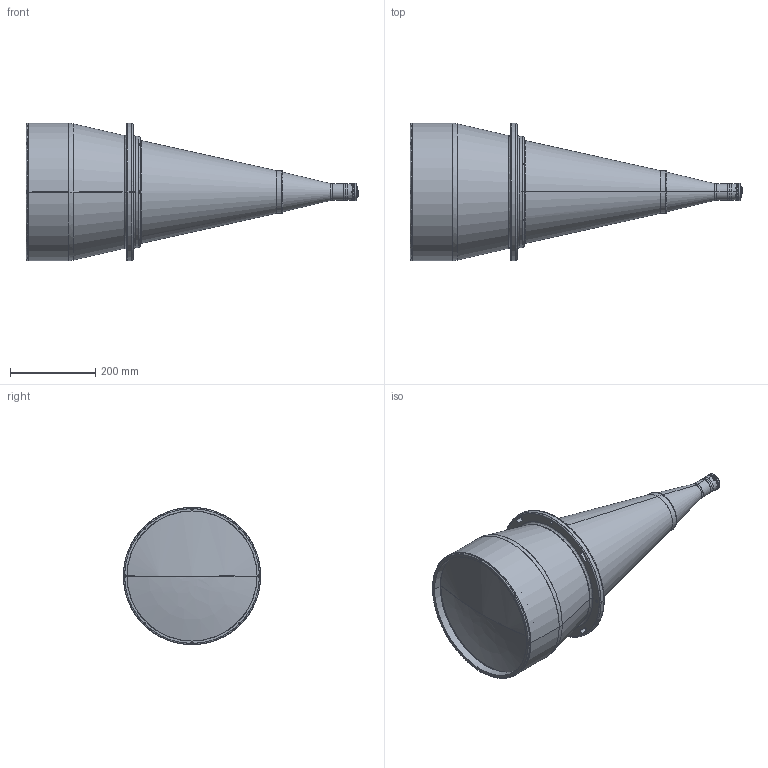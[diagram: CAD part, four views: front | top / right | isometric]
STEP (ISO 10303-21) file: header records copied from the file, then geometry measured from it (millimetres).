
FILE_DESCRIPTION(('LS-TCL-0256'),'2;1');
FILE_NAME('LS-TCL-0256.stp','2026-10-15T21:55:05',('LumaSpec Vision'),('LumaSpec Vision'),'LumaSpec Vision','LumaSpec Vision','');
FILE_SCHEMA(('AUTOMOTIVE_DESIGN { 1 0 10303 214 1 1 1 1 }'));
Length unit declared in the file: millimetre
Products named in the file (300): LumaSpec Vision
Assembly tree (299 placements, depth 2):
  LumaSpec Vision
    LumaSpec Vision
    LumaSpec Vision
    LumaSpec Vision
    LumaSpec Vision
    LumaSpec Vision
    LumaSpec Vision
    LumaSpec Vision
    LumaSpec Vision
    LumaSpec Vision
    LumaSpec Vision
    LumaSpec Vision
    LumaSpec Vision
    LumaSpec Vision
    LumaSpec Vision
    LumaSpec Vision
    LumaSpec Vision
    LumaSpec Vision
    LumaSpec Vision
    LumaSpec Vision
    LumaSpec Vision
    LumaSpec Vision
    LumaSpec Vision
    LumaSpec Vision
    LumaSpec Vision
    LumaSpec Vision
    LumaSpec Vision
    LumaSpec Vision
    LumaSpec Vision
    LumaSpec Vision
    LumaSpec Vision
    LumaSpec Vision
    LumaSpec Vision
    LumaSpec Vision
    LumaSpec Vision
    LumaSpec Vision
    LumaSpec Vision
    LumaSpec Vision
    LumaSpec Vision
    LumaSpec Vision
    LumaSpec Vision
    LumaSpec Vision
    LumaSpec Vision
    LumaSpec Vision
    LumaSpec Vision
    LumaSpec Vision
    LumaSpec Vision
    LumaSpec Vision
    LumaSpec Vision
    LumaSpec Vision
    LumaSpec Vision
    LumaSpec Vision
    LumaSpec Vision
    LumaSpec Vision
    LumaSpec Vision
    LumaSpec Vision
    LumaSpec Vision
    LumaSpec Vision
    LumaSpec Vision
    LumaSpec Vision
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Bounding box: 778.72 x 322 x 322 mm (x, y, z)
Surface area: 708084.2 mm2 (no closed solid volume)
Topology: 0 solids, 299 shells, 299 faces, 5254 edges, 5251 vertices
Faces by surface type: bspline 169, revolution 130
Entity records: 89185 total; most frequent: CARTESIAN_POINT 36782, B_SPLINE_CURVE_WITH_KNOTS 9328, ORIENTED_EDGE 5251, EDGE_CURVE 5251, VERTEX_POINT 5251, SURFACE_CURVE 5251, PCURVE 5251, DEFINITIONAL_REPRESENTATION 5251
